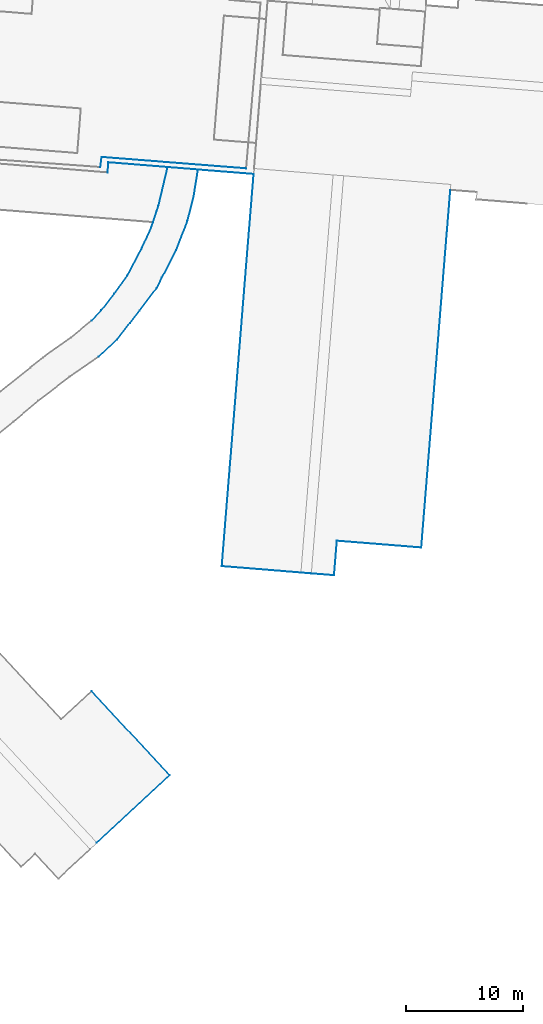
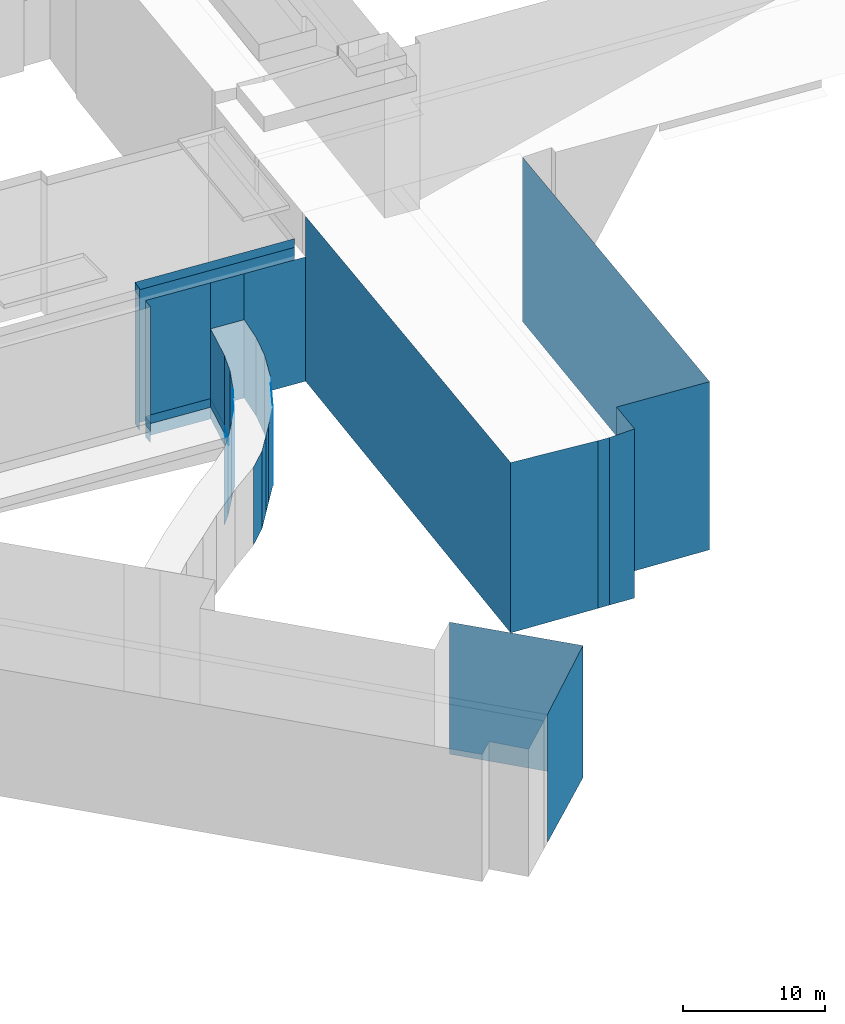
# Not in any storey, part 68 of 136: 48 walls.
"""IFC4 building model written with IfcOpenShell, lengths in metres."""

import ifcopenshell
import ifcopenshell.guid

model = None  # the IFC model being written
_history = None  # IfcOwnerHistory: only IFC2X3 demands one
_inside = {}  # id of a spatial element -> (the spatial element, [elements in it])
_under = {}  # id of a project, library or spatial element -> (it, [spatial elements below it])
_declared = {}  # id of a project -> (the project, [libraries it declares])
_typed = {}  # id of a type object -> (the type object, [elements of that type])
_made_of = {}  # id of a material, layer set ... -> (it, [elements and type objects made of it])


def new_model(schema):
    """Start an empty IFC model of exactly this schema.

    Asked for "IFC4X3", IfcOpenShell would pick the latest addendum, in which some entities
    have other attributes; the version numbers below select the first issue.
    IFC2X3 requires an IfcOwnerHistory on every rooted entity: one is made here for all.
    """
    global model, _history
    if schema == "IFC4X3":
        model = ifcopenshell.file(schema_version=(4, 3, 0, 0))
    else:
        model = ifcopenshell.file(schema=schema)
    _inside.clear()
    _under.clear()
    _declared.clear()
    _typed.clear()
    _made_of.clear()
    _history = None
    if model.schema == "IFC2X3":
        org = make("IfcOrganization", Name="unknown")
        user = make(
            "IfcPersonAndOrganization",
            ThePerson=make("IfcPerson", FamilyName="unknown"),
            TheOrganization=org,
        )
        app = make(
            "IfcApplication",
            ApplicationDeveloper=org,
            Version="unknown",
            ApplicationFullName="unknown",
            ApplicationIdentifier="unknown",
        )
        _history = make(
            "IfcOwnerHistory",
            OwningUser=user,
            OwningApplication=app,
            ChangeAction="ADDED",
            CreationDate=0,
        )
    return model


def make(cls, **values):
    """One entity of the class cls with the attributes given. An attribute that is None is left unset."""
    return model.create_entity(
        cls, **{name: value for name, value in values.items() if value is not None}
    )


def entity(cls, *values):
    """Any entity or typed value of the class cls, its attributes in the order of the schema. None: left unset."""
    e = model.create_entity(cls)
    for i, value in enumerate(values):
        if value is not None:
            e[i] = value
    return e


def rooted(cls, **values):
    """An entity with a GlobalId (a new one), such as an element, a storey or a relation."""
    return make(cls, GlobalId=ifcopenshell.guid.new(), OwnerHistory=_history, **values)


def si_unit(unit_type, name, prefix=None):
    """IfcSIUnit, for example si_unit("LENGTHUNIT", "METRE", prefix="MILLI")."""
    return make("IfcSIUnit", UnitType=unit_type, Prefix=prefix, Name=name)


def converted_unit(unit_type, name, factor, base, dimensions=None, offset=None):
    """IfcConversionBasedUnit, such as the inch: factor (a typed value) times the base unit."""
    return make(
        "IfcConversionBasedUnit"
        if offset is None
        else "IfcConversionBasedUnitWithOffset",
        ConversionOffset=offset,
        Dimensions=None
        if dimensions is None
        else entity("IfcDimensionalExponents", *dimensions),
        UnitType=unit_type,
        Name=name,
        ConversionFactor=make(
            "IfcMeasureWithUnit", ValueComponent=factor, UnitComponent=base
        ),
    )


def assignment(units):
    """IfcUnitAssignment: the units of a project."""
    return None if units is None else make("IfcUnitAssignment", Units=units)


def point(xyz):
    """IfcCartesianPoint."""
    return None if xyz is None else make("IfcCartesianPoint", Coordinates=xyz)


def direction(xyz):
    """IfcDirection."""
    return None if xyz is None else make("IfcDirection", DirectionRatios=xyz)


def frame(location, z_axis=None, x_axis=None):
    """IfcAxis2Placement3D, a coordinate frame: its origin and axes. An axis left out is left unset."""
    return make(
        "IfcAxis2Placement3D",
        Location=point(location),
        Axis=direction(z_axis),
        RefDirection=direction(x_axis),
    )


def origin():
    """The frame at (0, 0, 0) with its axes left unset."""
    return frame((0.0, 0.0, 0.0))


def place(relative_to, where):
    """IfcLocalPlacement: puts the frame where relative to a parent placement (None: the world)."""
    return make(
        "IfcLocalPlacement", PlacementRelTo=relative_to, RelativePlacement=where
    )


def context(
    kind, dimensions, precision=None, world=None, true_north=None, identifier=None
):
    """IfcGeometricRepresentationContext, for example the 3D "Model" context."""
    return make(
        "IfcGeometricRepresentationContext",
        ContextIdentifier=identifier,
        ContextType=kind,
        CoordinateSpaceDimension=dimensions,
        Precision=precision,
        WorldCoordinateSystem=world,
        TrueNorth=true_north,
    )


def subcontext(parent, identifier, kind, view, scale=None):
    """IfcGeometricRepresentationSubContext, for example "Body" below "Model"."""
    return make(
        "IfcGeometricRepresentationSubContext",
        ContextIdentifier=identifier,
        ContextType=kind,
        ParentContext=parent,
        TargetScale=scale,
        TargetView=view,
    )


def project(units=None, contexts=None):
    """IfcProject with its units and contexts."""
    return rooted(
        "IfcProject",
        Name="project",
        RepresentationContexts=contexts,
        UnitsInContext=assignment(units),
    )


def spatial(cls, under=None, at=None, **own):
    """A site, building, storey or space (cls), placed at a placement, below another one or the project."""
    s = rooted(cls, ObjectPlacement=at, **own)
    if under is not None:
        _under.setdefault(under.id(), (under, []))[1].append(s)
    return s


def faces_of(points, faces, orient=None, outer=None):
    """IfcFace entities. A face is a list of loops; a loop is a list of indices into points, from 0.

    orient and outer hold one flag for each loop. By default every Orientation is true, the
    first loop of a face is its IfcFaceOuterBound and the others are IfcFaceBound.
    """
    made = []
    for i, loops in enumerate(faces):
        bounds = []
        for j, loop in enumerate(loops):
            is_outer = j == 0 if outer is None else outer[i][j]
            bounds.append(
                make(
                    "IfcFaceOuterBound" if is_outer else "IfcFaceBound",
                    Bound=make("IfcPolyLoop", Polygon=[points[k] for k in loop]),
                    Orientation=True if orient is None else orient[i][j],
                )
            )
        made.append(make("IfcFace", Bounds=bounds))
    return made


def face_set(faces, orient=None, outer=None):
    """The faces of one IfcConnectedFaceSet. surface_model builds it on its shared points."""
    return ("IfcConnectedFaceSet", faces, orient, outer)


def surface_model(cls, points, shells):
    """IfcFaceBasedSurfaceModel or IfcShellBasedSurfaceModel (cls): surfaces that need not close."""
    shared = [point(p) for p in points]
    made = [make(c, CfsFaces=faces_of(shared, fs, o, b)) for c, fs, o, b in shells]
    if cls == "IfcFaceBasedSurfaceModel":
        return make(cls, FbsmFaces=made)
    return make(cls, SbsmBoundary=made)


def shape(context_of_items, identifier, shape_type, items):
    """IfcShapeRepresentation: the items that make up one representation, for example the "Body"."""
    return make(
        "IfcShapeRepresentation",
        ContextOfItems=context_of_items,
        RepresentationIdentifier=identifier,
        RepresentationType=shape_type,
        Items=items,
    )


def made_of(thing, what):
    """Note that an element or type object is made of a material, layer set ...; save() writes the relation."""
    if what is not None:
        _made_of.setdefault(what.id(), (what, []))[1].append(thing)
    return thing


def element(
    cls,
    number,
    at=None,
    inside=None,
    cuts=None,
    type_object=None,
    material=None,
    context=None,
    identifier="Body",
    shape_type=None,
    held_by="IfcProductDefinitionShape",
    body=None,
    shapes=None,
    **own,
):
    """One element of the class cls, such as IfcWall. Its Tag is "e" and its number.

    at: its placement. inside: the storey or other place that contains it. cuts: it is an
    opening in that element (IfcRelVoidsElement). A single representation is given by context,
    identifier, shape_type and body (its items); several are given by shapes. held_by: the class
    of the entity that holds the representations. save() writes the other relations.
    """
    e = rooted(cls, Tag="e%d" % number, ObjectPlacement=at, **own)
    if body is not None:
        shapes = [shape(context, identifier, shape_type, body)]
    if shapes is not None:
        e.Representation = make(held_by, Representations=shapes)
    if inside is not None:
        _inside.setdefault(inside.id(), (inside, []))[1].append(e)
    if cuts is not None:
        rooted(
            "IfcRelVoidsElement", RelatingBuildingElement=cuts, RelatedOpeningElement=e
        )
    if type_object is not None:
        _typed.setdefault(type_object.id(), (type_object, []))[1].append(e)
    return made_of(e, material)


def aggregate(whole, parts):
    """IfcRelAggregates: a whole, such as a stair, and the parts it consists of."""
    return rooted("IfcRelAggregates", RelatingObject=whole, RelatedObjects=parts)


def save(model, path):
    """Write the relations noted so far, then the file.

    IfcRelAggregates (storeys below a building ...), IfcRelContainedInSpatialStructure (elements
    in a storey), IfcRelDefinesByType, IfcRelAssociatesMaterial and IfcRelDeclares: one each for
    every whole, place, type object, material and project.
    """
    for whole, parts in _under.values():
        aggregate(whole, parts)
    for where, things in _inside.values():
        rooted(
            "IfcRelContainedInSpatialStructure",
            RelatedElements=things,
            RelatingStructure=where,
        )
    for kind, things in _typed.values():
        rooted("IfcRelDefinesByType", RelatedObjects=things, RelatingType=kind)
    for what, things in _made_of.values():
        rooted("IfcRelAssociatesMaterial", RelatedObjects=things, RelatingMaterial=what)
    for by, libraries in _declared.values():
        rooted("IfcRelDeclares", RelatingContext=by, RelatedDefinitions=libraries)
    model.write(path)


model = new_model("IFC4")

# Units and contexts
model_context = context("Model", 3, precision=1e-05, world=origin())
body_context = subcontext(model_context, "Body", "Model", "MODEL_VIEW")
ifc_project = project(units=[converted_unit("PLANEANGLEUNIT", "DEGREE", entity("IfcRatioMeasure", 0.0174532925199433), si_unit("PLANEANGLEUNIT", "RADIAN"), dimensions=[0, 0, 0, 0, 0, 0, 0]), si_unit("AREAUNIT", "SQUARE_METRE"), si_unit("LENGTHUNIT", "METRE")], contexts=[model_context])

# Site, building
site_placement = place(None, origin())
site = spatial("IfcSite", under=ifc_project, at=site_placement, Name="_site")
building_1_placement = place(site_placement, origin())
building_1 = spatial("IfcBuilding", under=site, at=building_1_placement, Name="_building")

# Walls
wall_1_placement = place(building_1_placement, origin())
element("IfcWall", 1, at=wall_1_placement, inside=building_1, Name="Wall", PredefinedType="NOTDEFINED", context=body_context, shape_type="SurfaceModel", body=[
    surface_model("IfcFaceBasedSurfaceModel", [(198.05, 6.68, 48.95), (204.72, -0.49, 48.95), (204.72, -0.49, 37.629), (198.05, 6.68, 37.634)], [face_set([[[0, 1, 2, 3]]])]),
])
wall_2_placement = place(building_1_placement, origin())
element("IfcWall", 2, at=wall_2_placement, inside=building_1, Name="Wall", PredefinedType="NOTDEFINED", context=body_context, shape_type="SurfaceModel", body=[
    surface_model("IfcFaceBasedSurfaceModel", [(204.72, -0.49, 48.95), (198.5, -6.27, 48.72), (198.5, -6.27, 37.73), (204.72, -0.49, 37.629)], [face_set([[[0, 1, 2, 3]]])]),
])

# Building
building_2_placement = place(site_placement, origin())
building_2 = spatial("IfcBuilding", under=site, at=building_2_placement, Name="_building")

# Walls
wall_3_placement = place(building_2_placement, origin())
element("IfcWall", 3, at=wall_3_placement, inside=building_2, Name="Wall", PredefinedType="NOTDEFINED", context=body_context, shape_type="SurfaceModel", body=[
    surface_model("IfcFaceBasedSurfaceModel", [(211.25, 51.34, 49.344), (198.9, 52.311, 49.344), (198.9, 52.311, 37.979), (211.25, 51.34, 37.976)], [face_set([[[0, 1, 2, 3]]])]),
])
wall_4_placement = place(building_2_placement, origin())
element("IfcWall", 4, at=wall_4_placement, inside=building_2, Name="Wall", PredefinedType="NOTDEFINED", context=body_context, shape_type="SurfaceModel", body=[
    surface_model("IfcFaceBasedSurfaceModel", [(211.89, 50.86, 48.6), (207.13, 51.24, 48.6), (207.13, 51.24, 37.947), (211.89, 50.86, 37.95)], [face_set([[[0, 1, 2, 3]]])]),
])
wall_5_placement = place(building_2_placement, origin())
element("IfcWall", 5, at=wall_5_placement, inside=building_2, Name="Wall", PredefinedType="NOTDEFINED", context=body_context, shape_type="SurfaceModel", body=[
    surface_model("IfcFaceBasedSurfaceModel", [(211.25, 51.34, 49.344), (198.9, 52.311, 49.344), (198.9, 52.311, 50.094), (211.25, 51.34, 50.094)], [face_set([[[0, 1, 2, 3]]])]),
])
wall_6_placement = place(building_2_placement, origin())
element("IfcWall", 6, at=wall_6_placement, inside=building_2, Name="Wall", PredefinedType="NOTDEFINED", context=body_context, shape_type="SurfaceModel", body=[
    surface_model("IfcFaceBasedSurfaceModel", [(219.0, 19.53, 52.25), (218.76, 16.58, 52.25), (218.76, 16.58, 37.752), (219.0, 19.53, 37.77)], [face_set([[[0, 1, 2, 3]]])]),
])
wall_7_placement = place(building_2_placement, origin())
element("IfcWall", 7, at=wall_7_placement, inside=building_2, Name="Wall", PredefinedType="NOTDEFINED", context=body_context, shape_type="SurfaceModel", body=[
    surface_model("IfcFaceBasedSurfaceModel", [(199.41, 50.99, 37.93), (199.48, 51.86, 37.93), (199.48, 51.86, 38.68), (199.41, 50.99, 38.68)], [face_set([[[0, 1, 2, 3]]])]),
])
wall_8_placement = place(building_2_placement, origin())
element("IfcWall", 8, at=wall_8_placement, inside=building_2, Name="Wall", PredefinedType="NOTDEFINED", context=body_context, shape_type="SurfaceModel", body=[
    surface_model("IfcFaceBasedSurfaceModel", [(198.9, 52.311, 49.344), (198.79, 51.45, 49.344), (198.79, 51.45, 50.094), (198.9, 52.311, 50.094)], [face_set([[[0, 1, 2, 3]]])]),
])
wall_9_placement = place(building_2_placement, origin())
element("IfcWall", 9, at=wall_9_placement, inside=building_2, Name="Wall", PredefinedType="NOTDEFINED", context=body_context, shape_type="SurfaceModel", body=[
    surface_model("IfcFaceBasedSurfaceModel", [(204.54, 51.45, 37.93), (203.75, 48.13, 37.93), (203.75, 48.13, 36.93), (204.54, 51.45, 36.93)], [face_set([[[0, 1, 2, 3]]])]),
])
wall_10_placement = place(building_2_placement, origin())
element("IfcWall", 10, at=wall_10_placement, inside=building_2, Name="Wall", PredefinedType="NOTDEFINED", context=body_context, shape_type="SurfaceModel", body=[
    surface_model("IfcFaceBasedSurfaceModel", [(203.61, 41.13, 44.65), (202.14, 39.18, 44.65), (202.14, 39.18, 37.985), (203.61, 41.13, 37.778)], [face_set([[[0, 1, 2, 3]]])]),
])
wall_11_placement = place(building_2_placement, origin())
element("IfcWall", 11, at=wall_11_placement, inside=building_2, Name="Wall", PredefinedType="NOTDEFINED", context=body_context, shape_type="SurfaceModel", body=[
    surface_model("IfcFaceBasedSurfaceModel", [(199.41, 50.99, 37.93), (199.48, 51.86, 37.93), (199.48, 51.86, 36.93), (199.41, 50.99, 36.93)], [face_set([[[0, 1, 2, 3]]])]),
])
wall_12_placement = place(building_2_placement, origin())
element("IfcWall", 12, at=wall_12_placement, inside=building_2, Name="Wall", PredefinedType="NOTDEFINED", context=body_context, shape_type="SurfaceModel", body=[
    surface_model("IfcFaceBasedSurfaceModel", [(201.1, 42.18, 44.65), (202.31, 44.47, 44.65), (202.31, 44.47, 37.747), (201.1, 42.18, 37.9)], [face_set([[[0, 1, 2, 3]]])]),
])
wall_13_placement = place(building_2_placement, origin())
element("IfcWall", 13, at=wall_13_placement, inside=building_2, Name="Wall", PredefinedType="NOTDEFINED", context=body_context, shape_type="SurfaceModel", body=[
    surface_model("IfcFaceBasedSurfaceModel", [(199.41, 50.99, 37.93), (199.48, 51.86, 37.93), (199.48, 51.86, 38.68), (199.41, 50.99, 38.68)], [face_set([[[0, 1, 2, 3]]])]),
])
wall_14_placement = place(building_2_placement, origin())
element("IfcWall", 14, at=wall_14_placement, inside=building_2, Name="Wall", PredefinedType="NOTDEFINED", context=body_context, shape_type="SurfaceModel", body=[
    surface_model("IfcFaceBasedSurfaceModel", [(204.54, 51.45, 44.65), (207.13, 51.24, 44.65), (207.13, 51.24, 37.947), (204.54, 51.45, 37.93)], [face_set([[[0, 1, 2, 3]]])]),
])
wall_15_placement = place(building_2_placement, origin())
element("IfcWall", 15, at=wall_15_placement, inside=building_2, Name="Wall", PredefinedType="NOTDEFINED", context=body_context, shape_type="SurfaceModel", body=[
    surface_model("IfcFaceBasedSurfaceModel", [(203.14, 46.29, 44.65), (203.75, 48.13, 44.65), (203.75, 48.13, 37.93), (203.14, 46.29, 37.899)], [face_set([[[0, 1, 2, 3]]])]),
])
wall_16_placement = place(building_2_placement, origin())
element("IfcWall", 16, at=wall_16_placement, inside=building_2, Name="Wall", PredefinedType="NOTDEFINED", context=body_context, shape_type="SurfaceModel", body=[
    surface_model("IfcFaceBasedSurfaceModel", [(228.69, 49.5, 52.09), (226.21, 18.95, 52.25), (226.21, 18.95, 37.845), (228.69, 49.5, 38.0)], [face_set([[[0, 1, 2, 3]]])]),
])
wall_17_placement = place(building_2_placement, origin())
element("IfcWall", 17, at=wall_17_placement, inside=building_2, Name="Wall", PredefinedType="NOTDEFINED", context=body_context, shape_type="SurfaceModel", body=[
    surface_model("IfcFaceBasedSurfaceModel", [(218.76, 16.58, 52.25), (216.81, 16.74, 52.09), (216.81, 16.74, 37.732), (218.76, 16.58, 37.752)], [face_set([[[0, 1, 2, 3]]])]),
])
wall_18_placement = place(building_2_placement, origin())
element("IfcWall", 18, at=wall_18_placement, inside=building_2, Name="Wall", PredefinedType="NOTDEFINED", context=body_context, shape_type="SurfaceModel", body=[
    surface_model("IfcFaceBasedSurfaceModel", [(211.25, 51.34, 49.344), (198.9, 52.311, 49.344), (198.9, 52.311, 50.094), (211.25, 51.34, 50.094)], [face_set([[[0, 1, 2, 3]]])]),
])
wall_19_placement = place(building_2_placement, origin())
element("IfcWall", 19, at=wall_19_placement, inside=building_2, Name="Wall", PredefinedType="NOTDEFINED", context=body_context, shape_type="SurfaceModel", body=[
    surface_model("IfcFaceBasedSurfaceModel", [(215.92, 16.811, 52.09), (209.17, 17.36, 52.25), (209.17, 17.36, 37.652), (215.92, 16.811, 37.722)], [face_set([[[0, 1, 2, 3]]])]),
])
wall_20_placement = place(building_2_placement, origin())
element("IfcWall", 20, at=wall_20_placement, inside=building_2, Name="Wall", PredefinedType="NOTDEFINED", context=body_context, shape_type="SurfaceModel", body=[
    surface_model("IfcFaceBasedSurfaceModel", [(198.9, 52.311, 49.344), (198.79, 51.45, 49.344), (198.79, 51.45, 50.094), (198.9, 52.311, 50.094)], [face_set([[[0, 1, 2, 3]]])]),
])
wall_21_placement = place(building_2_placement, origin())
element("IfcWall", 21, at=wall_21_placement, inside=building_2, Name="Wall", PredefinedType="NOTDEFINED", context=body_context, shape_type="SurfaceModel", body=[
    surface_model("IfcFaceBasedSurfaceModel", [(216.81, 16.74, 52.09), (215.92, 16.811, 52.09), (215.92, 16.811, 37.722), (216.81, 16.74, 37.732)], [face_set([[[0, 1, 2, 3]]])]),
])
wall_22_placement = place(building_2_placement, origin())
element("IfcWall", 22, at=wall_22_placement, inside=building_2, Name="Wall", PredefinedType="NOTDEFINED", context=body_context, shape_type="SurfaceModel", body=[
    surface_model("IfcFaceBasedSurfaceModel", [(207.13, 51.24, 48.6), (204.54, 51.45, 48.6), (204.54, 51.45, 37.93), (207.13, 51.24, 37.947)], [face_set([[[0, 1, 2, 3]]])]),
])
wall_23_placement = place(building_2_placement, origin())
element("IfcWall", 23, at=wall_23_placement, inside=building_2, Name="Wall", PredefinedType="NOTDEFINED", context=body_context, shape_type="SurfaceModel", body=[
    surface_model("IfcFaceBasedSurfaceModel", [(202.14, 39.18, 44.65), (201.32, 38.14, 44.65), (201.32, 38.14, 37.99), (202.14, 39.18, 37.985)], [face_set([[[0, 1, 2, 3]]])]),
])
wall_24_placement = place(building_2_placement, origin())
element("IfcWall", 24, at=wall_24_placement, inside=building_2, Name="Wall", PredefinedType="NOTDEFINED", context=body_context, shape_type="SurfaceModel", body=[
    surface_model("IfcFaceBasedSurfaceModel", [(204.54, 51.45, 48.6), (199.48, 51.86, 48.6), (199.48, 51.86, 37.93), (204.54, 51.45, 37.93)], [face_set([[[0, 1, 2, 3]]])]),
])
wall_25_placement = place(building_2_placement, origin())
element("IfcWall", 25, at=wall_25_placement, inside=building_2, Name="Wall", PredefinedType="NOTDEFINED", context=body_context, shape_type="SurfaceModel", body=[
    surface_model("IfcFaceBasedSurfaceModel", [(204.54, 51.45, 37.93), (203.75, 48.13, 37.93), (203.75, 48.13, 38.68), (204.54, 51.45, 38.68)], [face_set([[[0, 1, 2, 3]]])]),
])
wall_26_placement = place(building_2_placement, origin())
element("IfcWall", 26, at=wall_26_placement, inside=building_2, Name="Wall", PredefinedType="NOTDEFINED", context=body_context, shape_type="SurfaceModel", body=[
    surface_model("IfcFaceBasedSurfaceModel", [(203.75, 48.13, 37.93), (203.29, 46.74, 37.93), (203.29, 46.74, 38.68), (203.75, 48.13, 38.68)], [face_set([[[0, 1, 2, 3]]])]),
])
wall_27_placement = place(building_2_placement, origin())
element("IfcWall", 27, at=wall_27_placement, inside=building_2, Name="Wall", PredefinedType="NOTDEFINED", context=body_context, shape_type="SurfaceModel", body=[
    surface_model("IfcFaceBasedSurfaceModel", [(209.17, 17.36, 52.25), (211.89, 50.86, 52.09), (211.89, 50.86, 37.95), (209.17, 17.36, 37.652)], [face_set([[[0, 1, 2, 3]]])]),
])
wall_28_placement = place(building_2_placement, origin())
element("IfcWall", 28, at=wall_28_placement, inside=building_2, Name="Wall", PredefinedType="NOTDEFINED", context=body_context, shape_type="SurfaceModel", body=[
    surface_model("IfcFaceBasedSurfaceModel", [(199.48, 51.86, 37.93), (204.54, 51.45, 37.93), (204.54, 51.45, 36.93), (199.48, 51.86, 36.93)], [face_set([[[0, 1, 2, 3]]])]),
])
wall_29_placement = place(building_2_placement, origin())
element("IfcWall", 29, at=wall_29_placement, inside=building_2, Name="Wall", PredefinedType="NOTDEFINED", context=body_context, shape_type="SurfaceModel", body=[
    surface_model("IfcFaceBasedSurfaceModel", [(198.06, 38.351, 44.65), (198.88, 39.21, 44.65), (198.88, 39.21, 38.0), (198.06, 38.351, 38.0)], [face_set([[[0, 1, 2, 3]]])]),
])
wall_30_placement = place(building_2_placement, origin())
element("IfcWall", 30, at=wall_30_placement, inside=building_2, Name="Wall", PredefinedType="NOTDEFINED", context=body_context, shape_type="SurfaceModel", body=[
    surface_model("IfcFaceBasedSurfaceModel", [(200.21, 36.73, 44.65), (198.65, 35.26, 44.65), (198.65, 35.26, 37.971), (200.21, 36.73, 37.981)], [face_set([[[0, 1, 2, 3]]])]),
])
wall_31_placement = place(building_2_placement, origin())
element("IfcWall", 31, at=wall_31_placement, inside=building_2, Name="Wall", PredefinedType="NOTDEFINED", context=body_context, shape_type="SurfaceModel", body=[
    surface_model("IfcFaceBasedSurfaceModel", [(206.23, 46.84, 44.65), (205.27, 44.36, 44.65), (205.27, 44.36, 37.832), (206.23, 46.84, 37.858)], [face_set([[[0, 1, 2, 3]]])]),
])
wall_32_placement = place(building_2_placement, origin())
element("IfcWall", 32, at=wall_32_placement, inside=building_2, Name="Wall", PredefinedType="NOTDEFINED", context=body_context, shape_type="SurfaceModel", body=[
    surface_model("IfcFaceBasedSurfaceModel", [(202.31, 44.47, 44.65), (203.14, 46.29, 44.65), (203.14, 46.29, 37.899), (202.31, 44.47, 37.747)], [face_set([[[0, 1, 2, 3]]])]),
])
wall_33_placement = place(building_2_placement, origin())
element("IfcWall", 33, at=wall_33_placement, inside=building_2, Name="Wall", PredefinedType="NOTDEFINED", context=body_context, shape_type="SurfaceModel", body=[
    surface_model("IfcFaceBasedSurfaceModel", [(205.27, 44.36, 44.65), (204.05, 41.99, 44.65), (204.05, 41.99, 37.717), (205.27, 44.36, 37.832)], [face_set([[[0, 1, 2, 3]]])]),
])
wall_34_placement = place(building_2_placement, origin())
element("IfcWall", 34, at=wall_34_placement, inside=building_2, Name="Wall", PredefinedType="NOTDEFINED", context=body_context, shape_type="SurfaceModel", body=[
    surface_model("IfcFaceBasedSurfaceModel", [(203.75, 48.13, 37.93), (203.29, 46.74, 37.93), (203.29, 46.74, 38.68), (203.75, 48.13, 38.68)], [face_set([[[0, 1, 2, 3]]])]),
])
wall_35_placement = place(building_2_placement, origin())
element("IfcWall", 35, at=wall_35_placement, inside=building_2, Name="Wall", PredefinedType="NOTDEFINED", context=body_context, shape_type="SurfaceModel", body=[
    surface_model("IfcFaceBasedSurfaceModel", [(199.99, 40.66, 44.65), (201.1, 42.18, 44.65), (201.1, 42.18, 37.9), (199.99, 40.66, 37.999)], [face_set([[[0, 1, 2, 3]]])]),
])
wall_36_placement = place(building_2_placement, origin())
element("IfcWall", 36, at=wall_36_placement, inside=building_2, Name="Wall", PredefinedType="NOTDEFINED", context=body_context, shape_type="SurfaceModel", body=[
    surface_model("IfcFaceBasedSurfaceModel", [(203.75, 48.13, 37.93), (203.29, 46.74, 37.93), (203.29, 46.74, 36.93), (203.75, 48.13, 36.93)], [face_set([[[0, 1, 2, 3]]])]),
])
wall_37_placement = place(building_2_placement, origin())
element("IfcWall", 37, at=wall_37_placement, inside=building_2, Name="Wall", PredefinedType="NOTDEFINED", context=body_context, shape_type="SurfaceModel", body=[
    surface_model("IfcFaceBasedSurfaceModel", [(204.54, 51.45, 37.93), (203.75, 48.13, 37.93), (203.75, 48.13, 38.68), (204.54, 51.45, 38.68)], [face_set([[[0, 1, 2, 3]]])]),
])
wall_38_placement = place(building_2_placement, origin())
element("IfcWall", 38, at=wall_38_placement, inside=building_2, Name="Wall", PredefinedType="NOTDEFINED", context=body_context, shape_type="SurfaceModel", body=[
    surface_model("IfcFaceBasedSurfaceModel", [(201.32, 38.14, 44.65), (200.21, 36.73, 44.65), (200.21, 36.73, 37.981), (201.32, 38.14, 37.99)], [face_set([[[0, 1, 2, 3]]])]),
])
wall_39_placement = place(building_2_placement, origin())
element("IfcWall", 39, at=wall_39_placement, inside=building_2, Name="Wall", PredefinedType="NOTDEFINED", context=body_context, shape_type="SurfaceModel", body=[
    surface_model("IfcFaceBasedSurfaceModel", [(203.75, 48.13, 44.65), (204.54, 51.45, 44.65), (204.54, 51.45, 37.93), (203.75, 48.13, 37.93)], [face_set([[[0, 1, 2, 3]]])]),
])
wall_40_placement = place(building_2_placement, origin())
element("IfcWall", 40, at=wall_40_placement, inside=building_2, Name="Wall", PredefinedType="NOTDEFINED", context=body_context, shape_type="SurfaceModel", body=[
    surface_model("IfcFaceBasedSurfaceModel", [(206.77, 48.96, 44.65), (206.23, 46.84, 44.65), (206.23, 46.84, 37.858), (206.77, 48.96, 37.931)], [face_set([[[0, 1, 2, 3]]])]),
])
wall_41_placement = place(building_2_placement, origin())
element("IfcWall", 41, at=wall_41_placement, inside=building_2, Name="Wall", PredefinedType="NOTDEFINED", context=body_context, shape_type="SurfaceModel", body=[
    surface_model("IfcFaceBasedSurfaceModel", [(226.21, 18.95, 52.25), (219.0, 19.53, 52.25), (219.0, 19.53, 37.77), (226.21, 18.95, 37.845)], [face_set([[[0, 1, 2, 3]]])]),
])
wall_42_placement = place(building_2_placement, origin())
element("IfcWall", 42, at=wall_42_placement, inside=building_2, Name="Wall", PredefinedType="NOTDEFINED", context=body_context, shape_type="SurfaceModel", body=[
    surface_model("IfcFaceBasedSurfaceModel", [(204.05, 41.99, 44.65), (203.61, 41.13, 44.65), (203.61, 41.13, 37.778), (204.05, 41.99, 37.717)], [face_set([[[0, 1, 2, 3]]])]),
])
wall_43_placement = place(building_2_placement, origin())
element("IfcWall", 43, at=wall_43_placement, inside=building_2, Name="Wall", PredefinedType="NOTDEFINED", context=body_context, shape_type="SurfaceModel", body=[
    surface_model("IfcFaceBasedSurfaceModel", [(199.48, 51.86, 37.93), (204.54, 51.45, 37.93), (204.54, 51.45, 38.68), (199.48, 51.86, 38.68)], [face_set([[[0, 1, 2, 3]]])]),
])
wall_44_placement = place(building_2_placement, origin())
element("IfcWall", 44, at=wall_44_placement, inside=building_2, Name="Wall", PredefinedType="NOTDEFINED", context=body_context, shape_type="SurfaceModel", body=[
    surface_model("IfcFaceBasedSurfaceModel", [(198.88, 39.21, 44.65), (199.99, 40.66, 44.65), (199.99, 40.66, 37.999), (198.88, 39.21, 38.0)], [face_set([[[0, 1, 2, 3]]])]),
])
wall_45_placement = place(building_2_placement, origin())
element("IfcWall", 45, at=wall_45_placement, inside=building_2, Name="Wall", PredefinedType="NOTDEFINED", context=body_context, shape_type="SurfaceModel", body=[
    surface_model("IfcFaceBasedSurfaceModel", [(207.13, 51.24, 44.65), (206.77, 48.96, 44.65), (206.77, 48.96, 37.931), (207.13, 51.24, 37.947)], [face_set([[[0, 1, 2, 3]]])]),
])
wall_46_placement = place(building_2_placement, origin())
element("IfcWall", 46, at=wall_46_placement, inside=building_2, Name="Wall", PredefinedType="NOTDEFINED", context=body_context, shape_type="SurfaceModel", body=[
    surface_model("IfcFaceBasedSurfaceModel", [(199.48, 51.86, 37.93), (204.54, 51.45, 37.93), (204.54, 51.45, 38.68), (199.48, 51.86, 38.68)], [face_set([[[0, 1, 2, 3]]])]),
])
wall_47_placement = place(building_2_placement, origin())
element("IfcWall", 47, at=wall_47_placement, inside=building_2, Name="Wall", PredefinedType="NOTDEFINED", context=body_context, shape_type="SurfaceModel", body=[
    surface_model("IfcFaceBasedSurfaceModel", [(198.9, 52.311, 49.344), (198.79, 51.45, 49.344), (198.79, 51.45, 37.94), (198.9, 52.311, 37.979)], [face_set([[[0, 1, 2, 3]]])]),
])
wall_48_placement = place(building_2_placement, origin())
element("IfcWall", 48, at=wall_48_placement, inside=building_2, Name="Wall", PredefinedType="NOTDEFINED", context=body_context, shape_type="SurfaceModel", body=[
    surface_model("IfcFaceBasedSurfaceModel", [(199.48, 51.86, 48.6), (199.41, 50.99, 48.6), (199.41, 50.99, 37.93), (199.48, 51.86, 37.93)], [face_set([[[0, 1, 2, 3]]])]),
])

save(model, "model.ifc")
